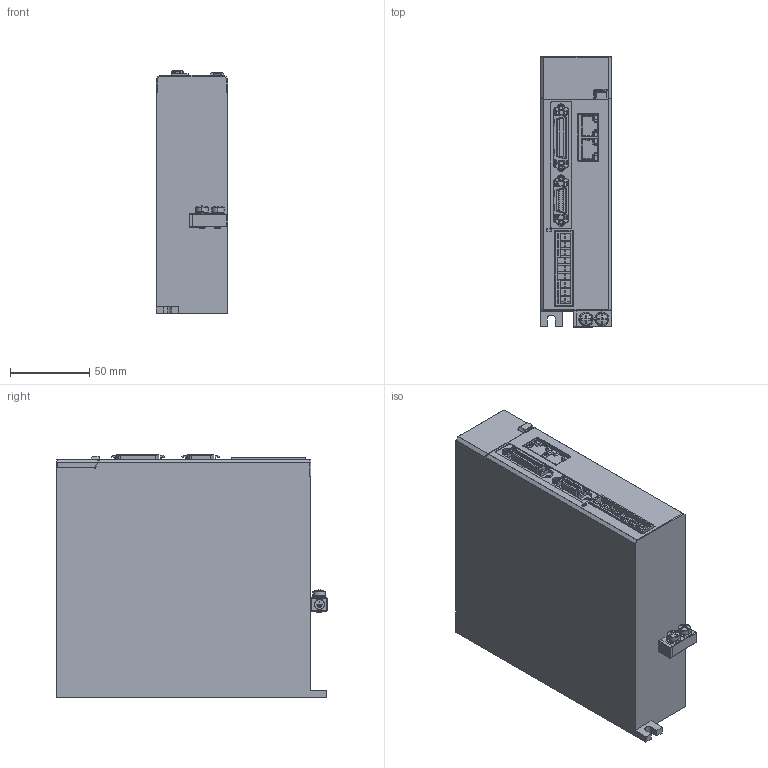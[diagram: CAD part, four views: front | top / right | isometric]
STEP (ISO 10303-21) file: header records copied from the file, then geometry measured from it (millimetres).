
FILE_DESCRIPTION (( 'STEP AP214' ), '1' );
FILE_NAME ('CDD5-3D0A-FSG-T1三维图.STEP', '2025-07-21T08:40:20', ( '' ), ( '' ), 'SwSTEP 2.0', 'SolidWorks 2016', '' );
FILE_SCHEMA (( 'AUTOMOTIVE_DESIGN' ));
Length unit declared in the file: millimetre
Products named in the file (1): CDD5-3D0A-FSG-T1三维图
Bounding box: 45 x 170.33 x 152.91 mm (x, y, z)
Volume: 1052886.9 mm3; surface area: 98174.4 mm2
Topology: 1 solids, 4 shells, 2189 faces, 5968 edges, 3834 vertices
Faces by surface type: plane 1469, cylinder 489, bspline 93, cone 64, torus 45, sphere 29
Entity records: 70143 total; most frequent: CARTESIAN_POINT 15266, ORIENTED_EDGE 11856, DIRECTION 10830, EDGE_CURVE 5928, LINE 4518, VECTOR 4518, VERTEX_POINT 3816, AXIS2_PLACEMENT_3D 3156
